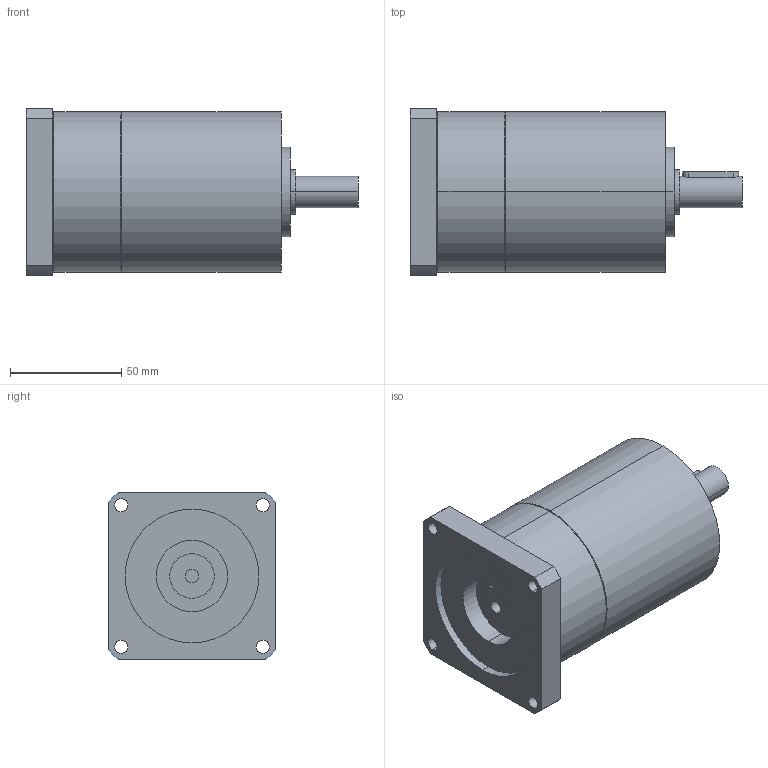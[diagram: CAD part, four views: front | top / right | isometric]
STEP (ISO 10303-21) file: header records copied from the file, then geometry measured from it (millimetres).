
FILE_DESCRIPTION(('CoCreate Modeling STEP Export'),'2;1');
FILE_NAME('GPT75_ig-9-12-16-20-25-28-35-40-50-70-100_14_B14T_6_P15.stp','2014-08-27T13:22:36',(''),(''),'CoCreate Modeling STEP processor for AP214 (Solid Model)','CoCreate Modeling 16.00C 25-Feb-2009 (C) Parametric Technology GmbH','');
FILE_SCHEMA(('AUTOMOTIVE_DESIGN { 1 0 10303 214 1 1 1 1 }'));
Length unit declared in the file: millimetre
Products named in the file (2): GPT75_ig-9-12-16-20-25-28-35-40-50-70-100_14_B14T_6_P15
Assembly tree (1 placements, depth 2):
  GPT75_ig-9-12-16-20-25-28-35-40-50-70-100_14_B14T_6_P15
    GPT75_ig-9-12-16-20-25-28-35-40-50-70-100_14_B14T_6_P15
Bounding box: 149 x 75 x 75 mm (x, y, z)
Volume: 475874.3 mm3; surface area: 43991.1 mm2
Topology: 1 solids, 1 shells, 69 faces, 166 edges, 113 vertices
Faces by surface type: cylinder 42, plane 23, cone 4
Entity records: 2161 total; most frequent: CARTESIAN_POINT 664, ORIENTED_EDGE 332, DIRECTION 262, EDGE_CURVE 166, VERTEX_POINT 113, AXIS2_PLACEMENT_3D 99, EDGE_LOOP 91, FACE_OUTER_BOUND 69
